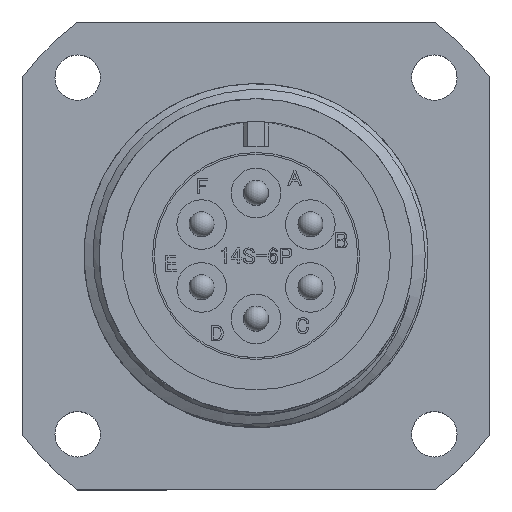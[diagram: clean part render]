
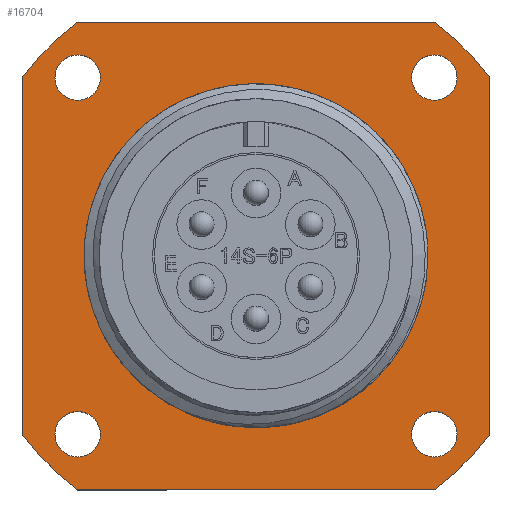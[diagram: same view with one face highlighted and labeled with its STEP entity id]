
A CAD part, top view. The second image highlights one B-rep face of the part: STEP entity #16704.
In plain terms, the highlighted planar face has unit normal (0, 0, 1).
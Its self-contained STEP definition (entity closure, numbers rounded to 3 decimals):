
#51 = CARTESIAN_POINT ( 'NONE',  ( 11.532, 15.1, -14.48 ) ) ;
#548 = FACE_BOUND ( 'NONE', #4897, .T. ) ;
#555 = EDGE_CURVE ( 'NONE', #16530, #16530, #5893, .T. ) ;
#670 = CARTESIAN_POINT ( 'NONE',  ( 0., 0., -14.48 ) ) ;
#701 = DIRECTION ( 'NONE',  ( 1., 0., 0. ) ) ;
#718 = CARTESIAN_POINT ( 'NONE',  ( -15.1, -11.532, -14.48 ) ) ;
#739 = EDGE_CURVE ( 'NONE', #1225, #1225, #2820, .T. ) ;
#854 = DIRECTION ( 'NONE',  ( 1., 0., 0. ) ) ;
#867 = CARTESIAN_POINT ( 'NONE',  ( -11.532, -15.1, -14.48 ) ) ;
#890 = EDGE_CURVE ( 'NONE', #8335, #8335, #10223, .T. ) ;
#1225 = VERTEX_POINT ( 'NONE', #9636 ) ;
#1479 = DIRECTION ( 'NONE',  ( 1., 0., 0. ) ) ;
#1496 = FACE_BOUND ( 'NONE', #5599, .T. ) ;
#1644 = ORIENTED_EDGE ( 'NONE', *, *, #2908, .T. ) ;
#1769 = CARTESIAN_POINT ( 'NONE',  ( -11.532, -15.1, -14.48 ) ) ;
#1981 = CIRCLE ( 'NONE', #14457, 19. ) ;
#2453 = ORIENTED_EDGE ( 'NONE', *, *, #890, .F. ) ;
#2490 = DIRECTION ( 'NONE',  ( 1., 0., 0. ) ) ;
#2540 = AXIS2_PLACEMENT_3D ( 'NONE', #8397, #12926, #8121 ) ;
#2566 = DIRECTION ( 'NONE',  ( 1., 0., 0. ) ) ;
#2820 = CIRCLE ( 'NONE', #2540, 1.465 ) ;
#2902 = ORIENTED_EDGE ( 'NONE', *, *, #16047, .T. ) ;
#2908 = EDGE_CURVE ( 'NONE', #4879, #16321, #17358, .T. ) ;
#2911 = AXIS2_PLACEMENT_3D ( 'NONE', #15220, #5994, #1479 ) ;
#2912 = CARTESIAN_POINT ( 'NONE',  ( 11.51, 11.51, -14.48 ) ) ;
#3333 = EDGE_CURVE ( 'NONE', #9065, #9065, #9012, .T. ) ;
#3403 = ORIENTED_EDGE ( 'NONE', *, *, #8868, .T. ) ;
#3689 = CARTESIAN_POINT ( 'NONE',  ( 12.975, -11.51, -14.48 ) ) ;
#3908 = CIRCLE ( 'NONE', #8179, 19. ) ;
#4775 = VERTEX_POINT ( 'NONE', #51 ) ;
#4879 = VERTEX_POINT ( 'NONE', #11054 ) ;
#4897 = EDGE_LOOP ( 'NONE', ( #18683 ) ) ;
#5201 = ORIENTED_EDGE ( 'NONE', *, *, #18536, .T. ) ;
#5230 = CARTESIAN_POINT ( 'NONE',  ( 0., 0., -14.48 ) ) ;
#5380 = DIRECTION ( 'NONE',  ( 1., 0., 0. ) ) ;
#5599 = EDGE_LOOP ( 'NONE', ( #13907 ) ) ;
#5692 = VERTEX_POINT ( 'NONE', #12814 ) ;
#5742 = PLANE ( 'NONE',  #19213 ) ;
#5893 = CIRCLE ( 'NONE', #14207, 11.095 ) ;
#5994 = DIRECTION ( 'NONE',  ( 0., 0., 1. ) ) ;
#6535 = DIRECTION ( 'NONE',  ( 0., 0., 1. ) ) ;
#7011 = AXIS2_PLACEMENT_3D ( 'NONE', #10126, #11665, #701 ) ;
#7346 = EDGE_CURVE ( 'NONE', #19185, #16490, #15463, .T. ) ;
#7508 = DIRECTION ( 'NONE',  ( 0., 0., 1. ) ) ;
#7571 = EDGE_LOOP ( 'NONE', ( #12771 ) ) ;
#7708 = CARTESIAN_POINT ( 'NONE',  ( 15.1, 11.532, -14.48 ) ) ;
#7984 = CARTESIAN_POINT ( 'NONE',  ( 0., 0., -14.48 ) ) ;
#8069 = EDGE_CURVE ( 'NONE', #16490, #4775, #8189, .T. ) ;
#8121 = DIRECTION ( 'NONE',  ( -1., 0., 0. ) ) ;
#8179 = AXIS2_PLACEMENT_3D ( 'NONE', #16715, #7508, #15328 ) ;
#8189 = CIRCLE ( 'NONE', #16559, 19. ) ;
#8335 = VERTEX_POINT ( 'NONE', #9494 ) ;
#8397 = CARTESIAN_POINT ( 'NONE',  ( -11.51, -11.51, -14.48 ) ) ;
#8641 = CARTESIAN_POINT ( 'NONE',  ( -15.1, 11.532, -14.48 ) ) ;
#8747 = VERTEX_POINT ( 'NONE', #718 ) ;
#8868 = EDGE_CURVE ( 'NONE', #5692, #19185, #3908, .T. ) ;
#9012 = CIRCLE ( 'NONE', #7011, 1.465 ) ;
#9065 = VERTEX_POINT ( 'NONE', #3689 ) ;
#9299 = VERTEX_POINT ( 'NONE', #1769 ) ;
#9494 = CARTESIAN_POINT ( 'NONE',  ( -10.045, 11.51, -14.48 ) ) ;
#9563 = AXIS2_PLACEMENT_3D ( 'NONE', #16034, #13154, #854 ) ;
#9602 = LINE ( 'NONE', #867, #12243 ) ;
#9636 = CARTESIAN_POINT ( 'NONE',  ( -12.975, -11.51, -14.48 ) ) ;
#9693 = CARTESIAN_POINT ( 'NONE',  ( 15.1, 11.532, -14.48 ) ) ;
#9755 = ORIENTED_EDGE ( 'NONE', *, *, #7346, .T. ) ;
#9792 = VERTEX_POINT ( 'NONE', #16021 ) ;
#10126 = CARTESIAN_POINT ( 'NONE',  ( 11.51, -11.51, -14.48 ) ) ;
#10162 = ORIENTED_EDGE ( 'NONE', *, *, #18435, .T. ) ;
#10223 = CIRCLE ( 'NONE', #2911, 1.465 ) ;
#10446 = DIRECTION ( 'NONE',  ( -1., 0., 0. ) ) ;
#10470 = EDGE_CURVE ( 'NONE', #4775, #4879, #16565, .T. ) ;
#10591 = ORIENTED_EDGE ( 'NONE', *, *, #555, .T. ) ;
#11034 = LINE ( 'NONE', #8641, #17770 ) ;
#11054 = CARTESIAN_POINT ( 'NONE',  ( -11.532, 15.1, -14.48 ) ) ;
#11116 = EDGE_LOOP ( 'NONE', ( #2453 ) ) ;
#11558 = DIRECTION ( 'NONE',  ( 1., 0., 0. ) ) ;
#11649 = DIRECTION ( 'NONE',  ( 0., 0., 1. ) ) ;
#11665 = DIRECTION ( 'NONE',  ( 0., 0., 1. ) ) ;
#11777 = AXIS2_PLACEMENT_3D ( 'NONE', #2912, #16622, #10446 ) ;
#11848 = CARTESIAN_POINT ( 'NONE',  ( 0., 0., -14.48 ) ) ;
#12243 = VECTOR ( 'NONE', #5380, 1000. ) ;
#12260 = FACE_BOUND ( 'NONE', #19552, .T. ) ;
#12741 = FACE_BOUND ( 'NONE', #11116, .T. ) ;
#12771 = ORIENTED_EDGE ( 'NONE', *, *, #19563, .F. ) ;
#12814 = CARTESIAN_POINT ( 'NONE',  ( 11.532, -15.1, -14.48 ) ) ;
#12926 = DIRECTION ( 'NONE',  ( 0., 0., 1. ) ) ;
#12951 = DIRECTION ( 'NONE',  ( 1., 0., 0. ) ) ;
#13154 = DIRECTION ( 'NONE',  ( 0., 0., 1. ) ) ;
#13187 = DIRECTION ( 'NONE',  ( 0., 0., -1. ) ) ;
#13226 = VECTOR ( 'NONE', #15823, 1000. ) ;
#13534 = VECTOR ( 'NONE', #19809, 1000. ) ;
#13907 = ORIENTED_EDGE ( 'NONE', *, *, #3333, .F. ) ;
#14207 = AXIS2_PLACEMENT_3D ( 'NONE', #670, #13187, #11558 ) ;
#14457 = AXIS2_PLACEMENT_3D ( 'NONE', #5230, #17491, #12951 ) ;
#14656 = CIRCLE ( 'NONE', #11777, 1.465 ) ;
#15011 = EDGE_LOOP ( 'NONE', ( #1644, #10162, #2902, #5201, #3403, #9755, #16705, #17519 ) ) ;
#15220 = CARTESIAN_POINT ( 'NONE',  ( -11.51, 11.51, -14.48 ) ) ;
#15328 = DIRECTION ( 'NONE',  ( 1., 0., 0. ) ) ;
#15463 = LINE ( 'NONE', #7708, #13534 ) ;
#15823 = DIRECTION ( 'NONE',  ( -1., 0., 0. ) ) ;
#15875 = FACE_OUTER_BOUND ( 'NONE', #15011, .T. ) ;
#16021 = CARTESIAN_POINT ( 'NONE',  ( 10.045, 11.51, -14.48 ) ) ;
#16034 = CARTESIAN_POINT ( 'NONE',  ( 0., 0., -14.48 ) ) ;
#16047 = EDGE_CURVE ( 'NONE', #8747, #9299, #1981, .T. ) ;
#16321 = VERTEX_POINT ( 'NONE', #18295 ) ;
#16490 = VERTEX_POINT ( 'NONE', #9693 ) ;
#16530 = VERTEX_POINT ( 'NONE', #17470 ) ;
#16559 = AXIS2_PLACEMENT_3D ( 'NONE', #7984, #6535, #2490 ) ;
#16565 = LINE ( 'NONE', #17342, #13226 ) ;
#16622 = DIRECTION ( 'NONE',  ( 0., 0., 1. ) ) ;
#16704 = ADVANCED_FACE ( 'NONE', ( #12260, #548, #1496, #19473, #12741, #15875 ), #5742, .T. ) ;
#16705 = ORIENTED_EDGE ( 'NONE', *, *, #8069, .T. ) ;
#16715 = CARTESIAN_POINT ( 'NONE',  ( 0., 0., -14.48 ) ) ;
#17342 = CARTESIAN_POINT ( 'NONE',  ( -11.532, 15.1, -14.48 ) ) ;
#17358 = CIRCLE ( 'NONE', #9563, 19. ) ;
#17470 = CARTESIAN_POINT ( 'NONE',  ( 11.095, 0., -14.48 ) ) ;
#17491 = DIRECTION ( 'NONE',  ( 0., 0., 1. ) ) ;
#17519 = ORIENTED_EDGE ( 'NONE', *, *, #10470, .T. ) ;
#17770 = VECTOR ( 'NONE', #19397, 1000. ) ;
#18295 = CARTESIAN_POINT ( 'NONE',  ( -15.1, 11.532, -14.48 ) ) ;
#18435 = EDGE_CURVE ( 'NONE', #16321, #8747, #11034, .T. ) ;
#18536 = EDGE_CURVE ( 'NONE', #9299, #5692, #9602, .T. ) ;
#18683 = ORIENTED_EDGE ( 'NONE', *, *, #739, .F. ) ;
#19185 = VERTEX_POINT ( 'NONE', #19597 ) ;
#19213 = AXIS2_PLACEMENT_3D ( 'NONE', #11848, #11649, #2566 ) ;
#19397 = DIRECTION ( 'NONE',  ( 0., -1., 0. ) ) ;
#19473 = FACE_BOUND ( 'NONE', #7571, .T. ) ;
#19552 = EDGE_LOOP ( 'NONE', ( #10591 ) ) ;
#19563 = EDGE_CURVE ( 'NONE', #9792, #9792, #14656, .T. ) ;
#19597 = CARTESIAN_POINT ( 'NONE',  ( 15.1, -11.532, -14.48 ) ) ;
#19809 = DIRECTION ( 'NONE',  ( 0., 1., 0. ) ) ;
